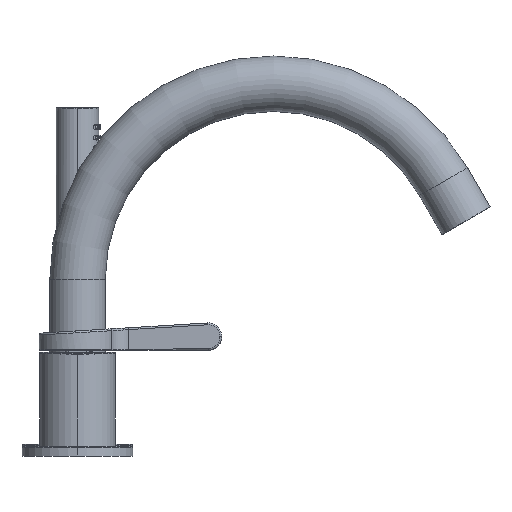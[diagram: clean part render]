
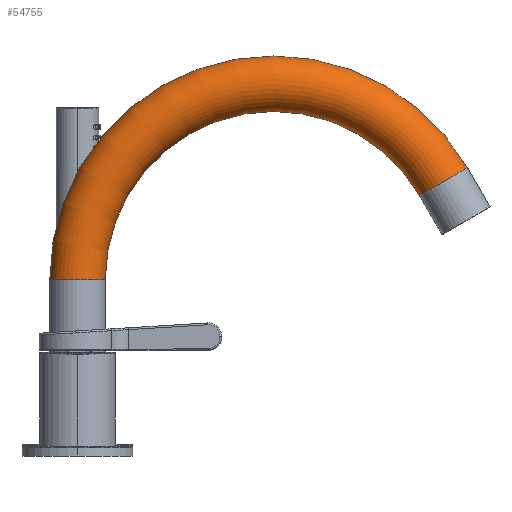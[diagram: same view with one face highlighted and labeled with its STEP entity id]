
A CAD part, left-side view. The second image highlights one B-rep face of the part: STEP entity #54755.
In plain terms, the highlighted toroidal (fillet/blend) face has major radius 106 mm and minor radius 15 mm.
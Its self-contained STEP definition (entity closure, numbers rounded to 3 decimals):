
#53817=CARTESIAN_POINT('',(100.,-106.,140.));
#53818=DIRECTION('',(1.,0.,0.));
#53819=DIRECTION('',(0.,1.,0.));
#53820=AXIS2_PLACEMENT_3D('',#53817,#53818,#53819);
#53822=CARTESIAN_POINT('',(100.,-197.799,193.));
#53823=DIRECTION('',(0.,-0.5,-0.866));
#53824=DIRECTION('',(0.,-0.866,0.5));
#53825=AXIS2_PLACEMENT_3D('',#53822,#53823,#53824);
#53827=CARTESIAN_POINT('',(100.,0.,140.));
#53828=DIRECTION('',(0.,0.,-1.));
#53829=DIRECTION('',(0.,-1.,0.));
#53830=AXIS2_PLACEMENT_3D('',#53827,#53828,#53829);
#53832=CARTESIAN_POINT('',(100.,-106.,140.));
#53833=DIRECTION('',(1.,0.,0.));
#53834=DIRECTION('',(0.,1.,0.));
#53835=AXIS2_PLACEMENT_3D('',#53832,#53833,#53834);
#54597=CARTESIAN_POINT('',(100.,-184.808,185.5));
#54598=VERTEX_POINT('',#54597);
#54599=CARTESIAN_POINT('',(100.,-210.789,200.5));
#54600=VERTEX_POINT('',#54599);
#54601=CARTESIAN_POINT('',(100.,15.,140.));
#54602=VERTEX_POINT('',#54601);
#54603=CARTESIAN_POINT('',(100.,-15.,140.));
#54604=VERTEX_POINT('',#54603);
#54743=CARTESIAN_POINT('',(100.,-106.,140.));
#54744=DIRECTION('',(-1.,0.,0.));
#54745=DIRECTION('',(0.,0.866,-0.5));
#54746=AXIS2_PLACEMENT_3D('',#54743,#54744,#54745);
#54747=TOROIDAL_SURFACE('',#54746,106.,15.);
#54748=ORIENTED_EDGE('',*,*,#54687,.T.);
#54749=ORIENTED_EDGE('',*,*,#54731,.F.);
#54751=ORIENTED_EDGE('',*,*,#54750,.T.);
#54752=ORIENTED_EDGE('',*,*,#54727,.T.);
#54753=EDGE_LOOP('',(#54748,#54749,#54751,#54752));
#54754=FACE_OUTER_BOUND('',#54753,.F.);
#53821=CIRCLE('',#53820,91.);
#53826=CIRCLE('',#53825,15.);
#53831=CIRCLE('',#53830,15.);
#53836=CIRCLE('',#53835,121.);
#54687=EDGE_CURVE('',#54600,#54598,#53826,.T.);
#54727=EDGE_CURVE('',#54602,#54600,#53836,.T.);
#54731=EDGE_CURVE('',#54604,#54598,#53821,.T.);
#54750=EDGE_CURVE('',#54604,#54602,#53831,.T.);
#54755=ADVANCED_FACE('',(#54754),#54747,.T.);
